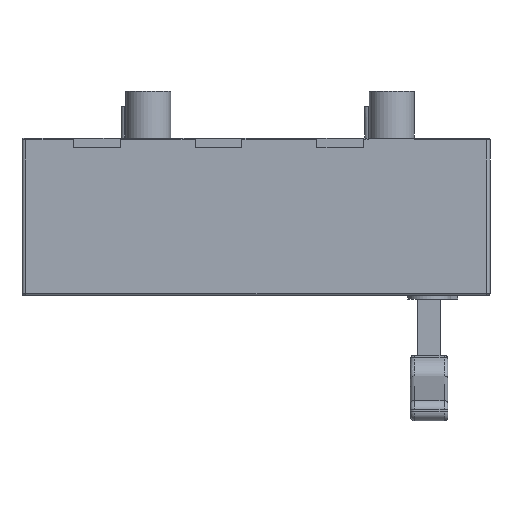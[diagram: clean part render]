
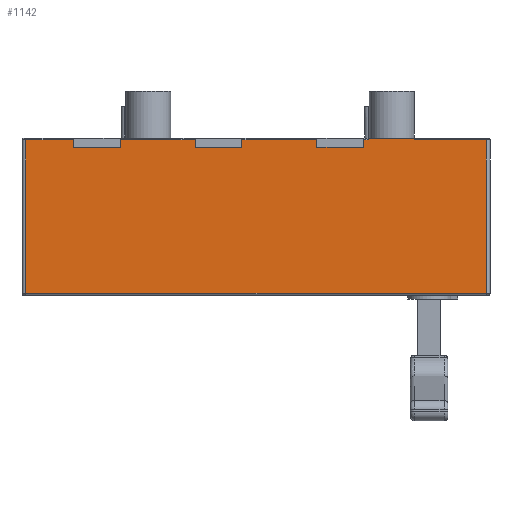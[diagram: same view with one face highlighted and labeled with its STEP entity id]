
A CAD part, front view. The second image highlights one B-rep face of the part: STEP entity #1142.
In plain terms, the highlighted planar face has unit normal (0, -1, 0).
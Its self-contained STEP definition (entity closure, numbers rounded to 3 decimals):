
#157=LINE('',#6233,#484);
#159=LINE('',#6242,#486);
#162=LINE('',#6247,#489);
#179=LINE('',#6287,#506);
#181=LINE('',#6296,#508);
#184=LINE('',#6301,#511);
#200=LINE('',#6339,#527);
#203=LINE('',#6347,#530);
#206=LINE('',#6355,#533);
#222=LINE('',#6429,#549);
#231=LINE('',#6520,#558);
#236=LINE('',#6537,#563);
#237=LINE('',#6539,#564);
#259=LINE('',#6663,#586);
#266=LINE('',#6712,#593);
#298=LINE('',#6812,#625);
#304=LINE('',#6824,#631);
#314=LINE('',#6844,#641);
#322=LINE('',#6860,#649);
#325=LINE('',#6864,#652);
#328=LINE('',#6869,#655);
#329=LINE('',#6870,#656);
#484=VECTOR('',#4982,1.);
#486=VECTOR('',#4990,1.);
#489=VECTOR('',#4995,1.);
#506=VECTOR('',#5028,1.);
#508=VECTOR('',#5036,1.);
#511=VECTOR('',#5041,1.);
#527=VECTOR('',#5073,1.);
#530=VECTOR('',#5080,1.);
#533=VECTOR('',#5087,1.);
#549=VECTOR('',#5143,1.);
#558=VECTOR('',#5208,1.);
#563=VECTOR('',#5231,1.);
#564=VECTOR('',#5234,1.);
#586=VECTOR('',#5372,1.);
#593=VECTOR('',#5393,1.);
#625=VECTOR('',#5493,1.);
#631=VECTOR('',#5505,1.);
#641=VECTOR('',#5527,1.);
#649=VECTOR('',#5551,1.);
#652=VECTOR('',#5556,1.);
#655=VECTOR('',#5563,1.);
#656=VECTOR('',#5564,1.);
#1142=ADVANCED_FACE('',(#1424),#1290,.T.);
#1290=PLANE('',#4470);
#1424=FACE_OUTER_BOUND('',#1713,.T.);
#1713=EDGE_LOOP('',(#2600,#2601,#2602,#2603,#2604,#2605,#2606,#2607,#2608,
#2609,#2610,#2611,#2612,#2613,#2614,#2615,#2616,#2617,#2618,#2619,#2620,
#2621));
#2600=ORIENTED_EDGE('',*,*,#3488,.F.);
#2601=ORIENTED_EDGE('',*,*,#3760,.T.);
#2602=ORIENTED_EDGE('',*,*,#3510,.F.);
#2603=ORIENTED_EDGE('',*,*,#3517,.F.);
#2604=ORIENTED_EDGE('',*,*,#3514,.F.);
#2605=ORIENTED_EDGE('',*,*,#3761,.T.);
#2606=ORIENTED_EDGE('',*,*,#3611,.F.);
#2607=ORIENTED_EDGE('',*,*,#3601,.T.);
#2608=ORIENTED_EDGE('',*,*,#3610,.T.);
#2609=ORIENTED_EDGE('',*,*,#3571,.T.);
#2610=ORIENTED_EDGE('',*,*,#3735,.T.);
#2611=ORIENTED_EDGE('',*,*,#3728,.F.);
#2612=ORIENTED_EDGE('',*,*,#3664,.F.);
#2613=ORIENTED_EDGE('',*,*,#3746,.T.);
#2614=ORIENTED_EDGE('',*,*,#3677,.T.);
#2615=ORIENTED_EDGE('',*,*,#3757,.T.);
#2616=ORIENTED_EDGE('',*,*,#3539,.T.);
#2617=ORIENTED_EDGE('',*,*,#3543,.T.);
#2618=ORIENTED_EDGE('',*,*,#3535,.T.);
#2619=ORIENTED_EDGE('',*,*,#3754,.T.);
#2620=ORIENTED_EDGE('',*,*,#3484,.F.);
#2621=ORIENTED_EDGE('',*,*,#3491,.F.);
#3059=VERTEX_POINT('',#6232);
#3060=VERTEX_POINT('',#6234);
#3063=VERTEX_POINT('',#6241);
#3064=VERTEX_POINT('',#6243);
#3079=VERTEX_POINT('',#6286);
#3080=VERTEX_POINT('',#6288);
#3083=VERTEX_POINT('',#6295);
#3084=VERTEX_POINT('',#6297);
#3099=VERTEX_POINT('',#6340);
#3100=VERTEX_POINT('',#6341);
#3102=VERTEX_POINT('',#6348);
#3103=VERTEX_POINT('',#6349);
#3124=VERTEX_POINT('',#6407);
#3125=VERTEX_POINT('',#6427);
#3133=VERTEX_POINT('',#6448);
#3143=VERTEX_POINT('',#6475);
#3147=VERTEX_POINT('',#6517);
#3195=VERTEX_POINT('',#6662);
#3196=VERTEX_POINT('',#6664);
#3203=VERTEX_POINT('',#6694);
#3206=VERTEX_POINT('',#6711);
#3241=VERTEX_POINT('',#6813);
#3484=EDGE_CURVE('',#3059,#3060,#157,.T.);
#3488=EDGE_CURVE('',#3063,#3064,#159,.T.);
#3491=EDGE_CURVE('',#3064,#3059,#162,.T.);
#3510=EDGE_CURVE('',#3079,#3080,#179,.T.);
#3514=EDGE_CURVE('',#3083,#3084,#181,.T.);
#3517=EDGE_CURVE('',#3084,#3079,#184,.T.);
#3535=EDGE_CURVE('',#3099,#3100,#200,.T.);
#3539=EDGE_CURVE('',#3102,#3103,#203,.T.);
#3543=EDGE_CURVE('',#3103,#3099,#206,.T.);
#3571=EDGE_CURVE('',#3124,#3125,#222,.T.);
#3601=EDGE_CURVE('',#3147,#3143,#231,.T.);
#3610=EDGE_CURVE('',#3143,#3124,#236,.T.);
#3611=EDGE_CURVE('',#3147,#3133,#237,.T.);
#3664=EDGE_CURVE('',#3195,#3196,#259,.T.);
#3677=EDGE_CURVE('',#3203,#3206,#266,.T.);
#3728=EDGE_CURVE('',#3196,#3241,#298,.T.);
#3735=EDGE_CURVE('',#3125,#3241,#304,.T.);
#3746=EDGE_CURVE('',#3195,#3203,#314,.T.);
#3754=EDGE_CURVE('',#3100,#3060,#322,.T.);
#3757=EDGE_CURVE('',#3206,#3102,#325,.T.);
#3760=EDGE_CURVE('',#3063,#3080,#328,.T.);
#3761=EDGE_CURVE('',#3083,#3133,#329,.T.);
#4470=AXIS2_PLACEMENT_3D('',#6871,#5565,#5566);
#4982=DIRECTION('',(0.,0.,1.));
#4990=DIRECTION('',(0.,0.,-1.));
#4995=DIRECTION('',(1.,0.,0.));
#5028=DIRECTION('',(0.,0.,1.));
#5036=DIRECTION('',(0.,0.,-1.));
#5041=DIRECTION('',(1.,0.,0.));
#5073=DIRECTION('',(0.,0.,1.));
#5080=DIRECTION('',(0.,0.,-1.));
#5087=DIRECTION('',(-1.,0.,0.));
#5143=DIRECTION('',(-1.,0.,0.));
#5208=DIRECTION('',(1.,0.,0.));
#5231=DIRECTION('',(0.,0.,1.));
#5234=DIRECTION('',(0.,0.,1.));
#5372=DIRECTION('',(0.,0.,-1.));
#5393=DIRECTION('',(0.,0.,-1.));
#5493=DIRECTION('',(1.,0.,0.));
#5505=DIRECTION('',(0.,0.,1.));
#5527=DIRECTION('',(-1.,0.,0.));
#5551=DIRECTION('',(-1.,0.,0.));
#5556=DIRECTION('',(-1.,0.,0.));
#5563=DIRECTION('',(-1.,0.,0.));
#5564=DIRECTION('',(-1.,0.,0.));
#5565=DIRECTION('',(0.,-1.,0.));
#5566=DIRECTION('',(1.,0.,0.));
#6232=CARTESIAN_POINT('',(-80.,-52.5,-5.));
#6233=CARTESIAN_POINT('',(-80.,-52.5,4.));
#6234=CARTESIAN_POINT('',(-80.,-52.5,-1.));
#6241=CARTESIAN_POINT('',(-105.,-52.5,-1.));
#6242=CARTESIAN_POINT('',(-105.,-52.5,4.));
#6243=CARTESIAN_POINT('',(-105.,-52.5,-5.));
#6247=CARTESIAN_POINT('',(-12.,-52.5,-5.));
#6286=CARTESIAN_POINT('',(-145.,-52.5,-5.));
#6287=CARTESIAN_POINT('',(-145.,-52.5,4.));
#6288=CARTESIAN_POINT('',(-145.,-52.5,-1.));
#6295=CARTESIAN_POINT('',(-170.,-52.5,-1.));
#6296=CARTESIAN_POINT('',(-170.,-52.5,4.));
#6297=CARTESIAN_POINT('',(-170.,-52.5,-5.));
#6301=CARTESIAN_POINT('',(-12.,-52.5,-5.));
#6339=CARTESIAN_POINT('',(-40.,-52.5,4.));
#6340=CARTESIAN_POINT('',(-40.,-52.5,-5.));
#6341=CARTESIAN_POINT('',(-40.,-52.5,-1.));
#6347=CARTESIAN_POINT('',(-15.,-52.5,4.));
#6348=CARTESIAN_POINT('',(-15.,-52.5,-1.));
#6349=CARTESIAN_POINT('',(-15.,-52.5,-5.));
#6355=CARTESIAN_POINT('',(-12.,-52.5,-5.));
#6407=CARTESIAN_POINT('',(50.5,-52.5,-1.));
#6427=CARTESIAN_POINT('',(12.,-52.5,-1.));
#6429=CARTESIAN_POINT('',(12.,-52.5,-1.));
#6448=CARTESIAN_POINT('',(-195.5,-52.5,-1.));
#6475=CARTESIAN_POINT('',(50.5,-52.5,-83.));
#6517=CARTESIAN_POINT('',(-195.5,-52.5,-83.));
#6520=CARTESIAN_POINT('',(-12.,-52.5,-83.));
#6537=CARTESIAN_POINT('',(50.5,-52.5,-84.));
#6539=CARTESIAN_POINT('',(-195.5,-52.5,-84.));
#6662=CARTESIAN_POINT('',(-12.,-52.5,17.));
#6663=CARTESIAN_POINT('',(-12.,-52.5,25.));
#6664=CARTESIAN_POINT('',(-12.,-52.5,0.));
#6694=CARTESIAN_POINT('',(-12.5,-52.5,17.));
#6711=CARTESIAN_POINT('',(-12.5,-52.5,-1.));
#6712=CARTESIAN_POINT('',(-12.5,-52.5,4.));
#6812=CARTESIAN_POINT('',(50.5,-52.5,0.));
#6813=CARTESIAN_POINT('',(12.,-52.5,0.));
#6824=CARTESIAN_POINT('',(12.,-52.5,4.));
#6844=CARTESIAN_POINT('',(7.5,-52.5,17.));
#6860=CARTESIAN_POINT('',(-195.5,-52.5,-1.));
#6864=CARTESIAN_POINT('',(-195.5,-52.5,-1.));
#6869=CARTESIAN_POINT('',(-195.5,-52.5,-1.));
#6870=CARTESIAN_POINT('',(-195.5,-52.5,-1.));
#6871=CARTESIAN_POINT('',(-12.,-52.5,4.));
